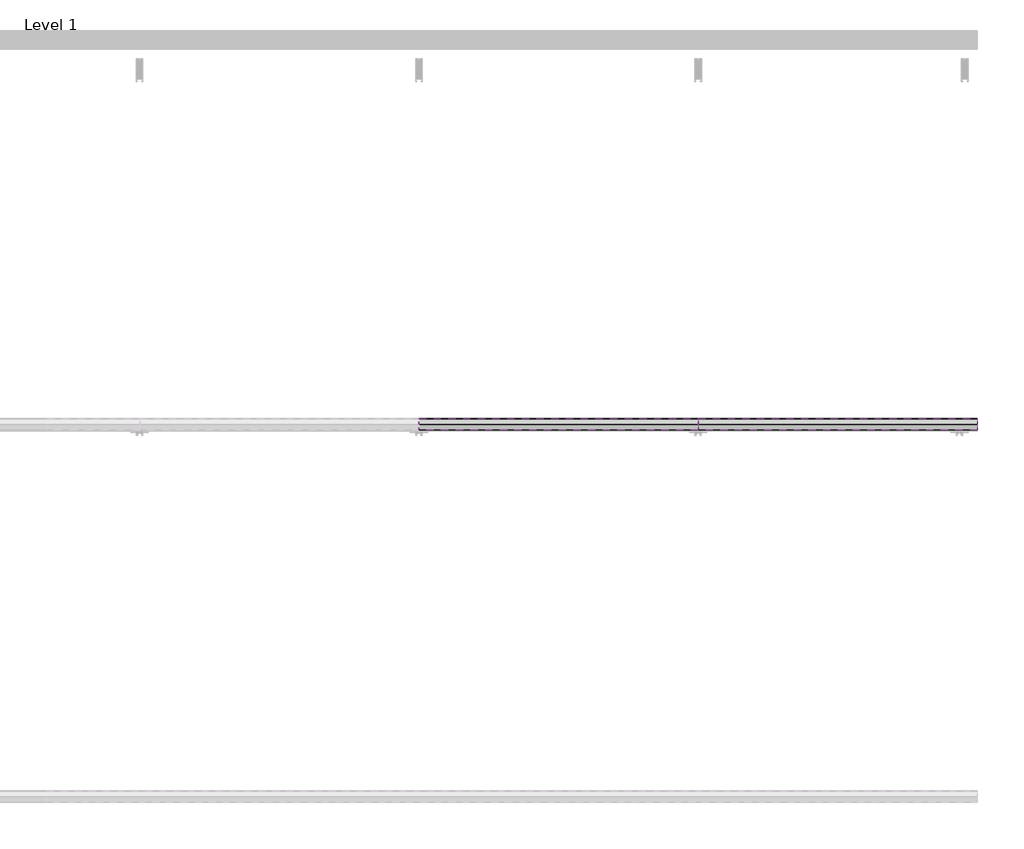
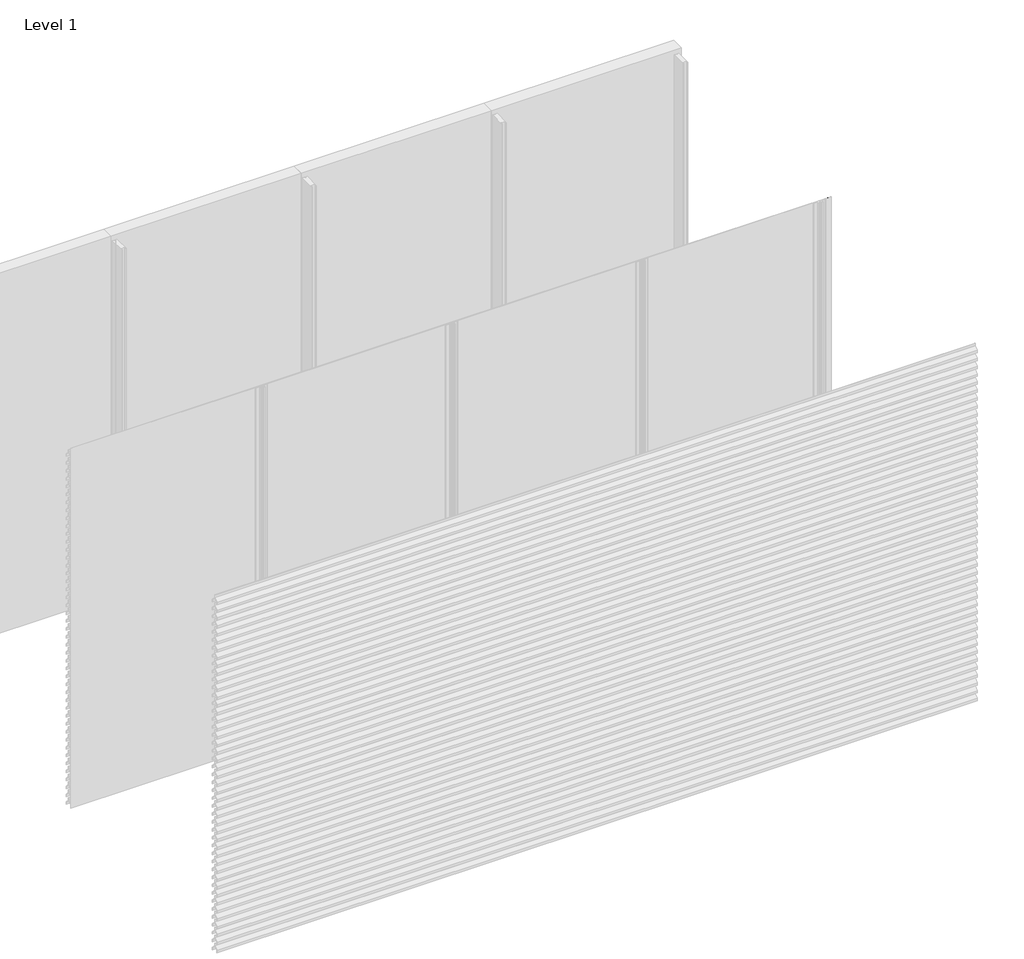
# One storey, part 5 of 35: 69 proxies.
"""IFC4 building model written with IfcOpenShell, lengths in millimetres."""

from ifc_helpers import new_model, si_unit, frame, origin, place, context, project, spatial, polyline, outline, extrude, element, save

model = new_model("IFC4")

# Units and contexts
model_context = context("Model", 3, world=origin())
ifc_project = project(units=[si_unit("LENGTHUNIT", "METRE", prefix="MILLI")], contexts=[model_context])

# Site, building, storey
site = spatial("IfcSite", under=ifc_project)
building = spatial("IfcBuilding", under=site)
storey = spatial("IfcBuildingStorey", under=building, Name="Level 1", Elevation=0.0)

# Proxies
placement = place(None, origin())
element("IfcBuildingElementProxy", 1, Name="Wall Sweeps", at=placement, inside=storey, context=model_context, shape_type="SweptSolid", body=[
    extrude(outline(polyline([(-53936.0, 2388.0), (-53936.0, 2368.0), (-53937.25, 2368.0), (-53937.25, 2387.4342979), (-53968.1138939, 2420.531772), (-53996.7, 2400.4392868), (-53996.7, 2381.6629874), (-53998.0, 2380.8506572), (-53998.0, 2401.1145472), (-53968.537525, 2421.823011), (-53968.537525, 2442.0), (-53967.1772624, 2442.0), (-53967.1772624, 2421.4335207), (-53936.0, 2388.0)])), frame((3000.0, 0.0, 0.0), z_axis=(1.0, 0.0, 0.0), x_axis=(0.0, 1.0, 0.0)), (0.0, 0.0, 1.0), 1500.0),
])
element("IfcBuildingElementProxy", 2, Name="Wall Sweeps", at=placement, inside=storey, context=model_context, shape_type="SweptSolid", body=[
    extrude(outline(polyline([(-53936.0, 2322.0), (-53936.0, 2302.0), (-53937.25, 2302.0), (-53937.25, 2321.4342979), (-53968.1138939, 2354.531772), (-53996.7, 2334.4392868), (-53996.7, 2315.6629874), (-53998.0, 2314.8506572), (-53998.0, 2335.1145472), (-53968.537525, 2355.823011), (-53968.537525, 2376.0), (-53967.1772624, 2376.0), (-53967.1772624, 2355.4335207), (-53936.0, 2322.0)])), frame((3000.0, 0.0, 0.0), z_axis=(1.0, 0.0, 0.0), x_axis=(0.0, 1.0, 0.0)), (0.0, 0.0, 1.0), 1500.0),
])
element("IfcBuildingElementProxy", 3, Name="Wall Sweeps", at=placement, inside=storey, context=model_context, shape_type="SweptSolid", body=[
    extrude(outline(polyline([(-53936.0, 2256.0), (-53936.0, 2236.0), (-53937.25, 2236.0), (-53937.25, 2255.4342979), (-53968.1138939, 2288.531772), (-53996.7, 2268.4392868), (-53996.7, 2249.6629874), (-53998.0, 2248.8506572), (-53998.0, 2269.1145472), (-53968.537525, 2289.823011), (-53968.537525, 2310.0), (-53967.1772624, 2310.0), (-53967.1772624, 2289.4335207), (-53936.0, 2256.0)])), frame((3000.0, 0.0, 0.0), z_axis=(1.0, 0.0, 0.0), x_axis=(0.0, 1.0, 0.0)), (0.0, 0.0, 1.0), 1500.0),
])
element("IfcBuildingElementProxy", 4, Name="Wall Sweeps", at=placement, inside=storey, context=model_context, shape_type="SweptSolid", body=[
    extrude(outline(polyline([(-53936.0, 2190.0), (-53936.0, 2170.0), (-53937.25, 2170.0), (-53937.25, 2189.4342979), (-53968.1138939, 2222.531772), (-53996.7, 2202.4392868), (-53996.7, 2183.6629874), (-53998.0, 2182.8506572), (-53998.0, 2203.1145472), (-53968.537525, 2223.823011), (-53968.537525, 2244.0), (-53967.1772624, 2244.0), (-53967.1772624, 2223.4335207), (-53936.0, 2190.0)])), frame((3000.0, 0.0, 0.0), z_axis=(1.0, 0.0, 0.0), x_axis=(0.0, 1.0, 0.0)), (0.0, 0.0, 1.0), 1500.0),
])
element("IfcBuildingElementProxy", 5, Name="Wall Sweeps", at=placement, inside=storey, context=model_context, shape_type="SweptSolid", body=[
    extrude(outline(polyline([(-53936.0, 2124.0), (-53936.0, 2104.0), (-53937.25, 2104.0), (-53937.25, 2123.4342979), (-53968.1138939, 2156.531772), (-53996.7, 2136.4392868), (-53996.7, 2117.6629874), (-53998.0, 2116.8506572), (-53998.0, 2137.1145472), (-53968.537525, 2157.823011), (-53968.537525, 2178.0), (-53967.1772624, 2178.0), (-53967.1772624, 2157.4335207), (-53936.0, 2124.0)])), frame((3000.0, 0.0, 0.0), z_axis=(1.0, 0.0, 0.0), x_axis=(0.0, 1.0, 0.0)), (0.0, 0.0, 1.0), 1500.0),
])
element("IfcBuildingElementProxy", 6, Name="Wall Sweeps", at=placement, inside=storey, context=model_context, shape_type="SweptSolid", body=[
    extrude(outline(polyline([(-53936.0, 2058.0), (-53936.0, 2038.0), (-53937.25, 2038.0), (-53937.25, 2057.4342979), (-53968.1138939, 2090.531772), (-53996.7, 2070.4392868), (-53996.7, 2051.6629874), (-53998.0, 2050.8506572), (-53998.0, 2071.1145472), (-53968.537525, 2091.823011), (-53968.537525, 2112.0), (-53967.1772624, 2112.0), (-53967.1772624, 2091.4335207), (-53936.0, 2058.0)])), frame((3000.0, 0.0, 0.0), z_axis=(1.0, 0.0, 0.0), x_axis=(0.0, 1.0, 0.0)), (0.0, 0.0, 1.0), 1500.0),
])
element("IfcBuildingElementProxy", 7, Name="Wall Sweeps", at=placement, inside=storey, context=model_context, shape_type="SweptSolid", body=[
    extrude(outline(polyline([(-53936.0, 1992.0), (-53936.0, 1972.0), (-53937.25, 1972.0), (-53937.25, 1991.4342979), (-53968.1138939, 2024.531772), (-53996.7, 2004.4392868), (-53996.7, 1985.6629874), (-53998.0, 1984.8506572), (-53998.0, 2005.1145472), (-53968.537525, 2025.823011), (-53968.537525, 2046.0), (-53967.1772624, 2046.0), (-53967.1772624, 2025.4335207), (-53936.0, 1992.0)])), frame((3000.0, 0.0, 0.0), z_axis=(1.0, 0.0, 0.0), x_axis=(0.0, 1.0, 0.0)), (0.0, 0.0, 1.0), 1500.0),
])
element("IfcBuildingElementProxy", 8, Name="Wall Sweeps", at=placement, inside=storey, context=model_context, shape_type="SweptSolid", body=[
    extrude(outline(polyline([(-53936.0, 1926.0), (-53936.0, 1906.0), (-53937.25, 1906.0), (-53937.25, 1925.4342979), (-53968.1138939, 1958.531772), (-53996.7, 1938.4392868), (-53996.7, 1919.6629874), (-53998.0, 1918.8506572), (-53998.0, 1939.1145472), (-53968.537525, 1959.823011), (-53968.537525, 1980.0), (-53967.1772624, 1980.0), (-53967.1772624, 1959.4335207), (-53936.0, 1926.0)])), frame((3000.0, 0.0, 0.0), z_axis=(1.0, 0.0, 0.0), x_axis=(0.0, 1.0, 0.0)), (0.0, 0.0, 1.0), 1500.0),
])
element("IfcBuildingElementProxy", 9, Name="Wall Sweeps", at=placement, inside=storey, context=model_context, shape_type="SweptSolid", body=[
    extrude(outline(polyline([(-53936.0, 1860.0), (-53936.0, 1840.0), (-53937.25, 1840.0), (-53937.25, 1859.4342979), (-53968.1138939, 1892.531772), (-53996.7, 1872.4392868), (-53996.7, 1853.6629874), (-53998.0, 1852.8506572), (-53998.0, 1873.1145472), (-53968.537525, 1893.823011), (-53968.537525, 1914.0), (-53967.1772624, 1914.0), (-53967.1772624, 1893.4335207), (-53936.0, 1860.0)])), frame((3000.0, 0.0, 0.0), z_axis=(1.0, 0.0, 0.0), x_axis=(0.0, 1.0, 0.0)), (0.0, 0.0, 1.0), 1500.0),
])
element("IfcBuildingElementProxy", 10, Name="Wall Sweeps", at=placement, inside=storey, context=model_context, shape_type="SweptSolid", body=[
    extrude(outline(polyline([(-53936.0, 1794.0), (-53936.0, 1774.0), (-53937.25, 1774.0), (-53937.25, 1793.4342979), (-53968.1138939, 1826.531772), (-53996.7, 1806.4392868), (-53996.7, 1787.6629874), (-53998.0, 1786.8506572), (-53998.0, 1807.1145472), (-53968.537525, 1827.823011), (-53968.537525, 1848.0), (-53967.1772624, 1848.0), (-53967.1772624, 1827.4335207), (-53936.0, 1794.0)])), frame((3000.0, 0.0, 0.0), z_axis=(1.0, 0.0, 0.0), x_axis=(0.0, 1.0, 0.0)), (0.0, 0.0, 1.0), 1500.0),
])
element("IfcBuildingElementProxy", 11, Name="Wall Sweeps", at=placement, inside=storey, context=model_context, shape_type="SweptSolid", body=[
    extrude(outline(polyline([(-53936.0, 1728.0), (-53936.0, 1708.0), (-53937.25, 1708.0), (-53937.25, 1727.4342979), (-53968.1138939, 1760.531772), (-53996.7, 1740.4392868), (-53996.7, 1721.6629874), (-53998.0, 1720.8506572), (-53998.0, 1741.1145472), (-53968.537525, 1761.823011), (-53968.537525, 1782.0), (-53967.1772624, 1782.0), (-53967.1772624, 1761.4335207), (-53936.0, 1728.0)])), frame((3000.0, 0.0, 0.0), z_axis=(1.0, 0.0, 0.0), x_axis=(0.0, 1.0, 0.0)), (0.0, 0.0, 1.0), 1500.0),
])
element("IfcBuildingElementProxy", 12, Name="Wall Sweeps", at=placement, inside=storey, context=model_context, shape_type="SweptSolid", body=[
    extrude(outline(polyline([(-53936.0, 1662.0), (-53936.0, 1642.0), (-53937.25, 1642.0), (-53937.25, 1661.4342979), (-53968.1138939, 1694.531772), (-53996.7, 1674.4392868), (-53996.7, 1655.6629874), (-53998.0, 1654.8506572), (-53998.0, 1675.1145472), (-53968.537525, 1695.823011), (-53968.537525, 1716.0), (-53967.1772624, 1716.0), (-53967.1772624, 1695.4335207), (-53936.0, 1662.0)])), frame((3000.0, 0.0, 0.0), z_axis=(1.0, 0.0, 0.0), x_axis=(0.0, 1.0, 0.0)), (0.0, 0.0, 1.0), 1500.0),
])
element("IfcBuildingElementProxy", 13, Name="Wall Sweeps", at=placement, inside=storey, context=model_context, shape_type="SweptSolid", body=[
    extrude(outline(polyline([(-53936.0, 1596.0), (-53936.0, 1576.0), (-53937.25, 1576.0), (-53937.25, 1595.4342979), (-53968.1138939, 1628.531772), (-53996.7, 1608.4392868), (-53996.7, 1589.6629874), (-53998.0, 1588.8506572), (-53998.0, 1609.1145472), (-53968.537525, 1629.823011), (-53968.537525, 1650.0), (-53967.1772624, 1650.0), (-53967.1772624, 1629.4335207), (-53936.0, 1596.0)])), frame((3000.0, 0.0, 0.0), z_axis=(1.0, 0.0, 0.0), x_axis=(0.0, 1.0, 0.0)), (0.0, 0.0, 1.0), 1500.0),
])
element("IfcBuildingElementProxy", 14, Name="Wall Sweeps", at=placement, inside=storey, context=model_context, shape_type="SweptSolid", body=[
    extrude(outline(polyline([(-53936.0, 1530.0), (-53936.0, 1510.0), (-53937.25, 1510.0), (-53937.25, 1529.4342979), (-53968.1138939, 1562.531772), (-53996.7, 1542.4392868), (-53996.7, 1523.6629874), (-53998.0, 1522.8506572), (-53998.0, 1543.1145472), (-53968.537525, 1563.823011), (-53968.537525, 1584.0), (-53967.1772624, 1584.0), (-53967.1772624, 1563.4335207), (-53936.0, 1530.0)])), frame((3000.0, 0.0, 0.0), z_axis=(1.0, 0.0, 0.0), x_axis=(0.0, 1.0, 0.0)), (0.0, 0.0, 1.0), 1500.0),
])
element("IfcBuildingElementProxy", 15, Name="Wall Sweeps", at=placement, inside=storey, context=model_context, shape_type="SweptSolid", body=[
    extrude(outline(polyline([(-53936.0, 1464.0), (-53936.0, 1444.0), (-53937.25, 1444.0), (-53937.25, 1463.4342979), (-53968.1138939, 1496.531772), (-53996.7, 1476.4392868), (-53996.7, 1457.6629874), (-53998.0, 1456.8506572), (-53998.0, 1477.1145472), (-53968.537525, 1497.823011), (-53968.537525, 1518.0), (-53967.1772624, 1518.0), (-53967.1772624, 1497.4335207), (-53936.0, 1464.0)])), frame((3000.0, 0.0, 0.0), z_axis=(1.0, 0.0, 0.0), x_axis=(0.0, 1.0, 0.0)), (0.0, 0.0, 1.0), 1500.0),
])
element("IfcBuildingElementProxy", 16, Name="Wall Sweeps", at=placement, inside=storey, context=model_context, shape_type="SweptSolid", body=[
    extrude(outline(polyline([(-53936.0, 1398.0), (-53936.0, 1378.0), (-53937.25, 1378.0), (-53937.25, 1397.4342979), (-53968.1138939, 1430.531772), (-53996.7, 1410.4392868), (-53996.7, 1391.6629874), (-53998.0, 1390.8506572), (-53998.0, 1411.1145472), (-53968.537525, 1431.823011), (-53968.537525, 1452.0), (-53967.1772624, 1452.0), (-53967.1772624, 1431.4335207), (-53936.0, 1398.0)])), frame((3000.0, 0.0, 0.0), z_axis=(1.0, 0.0, 0.0), x_axis=(0.0, 1.0, 0.0)), (0.0, 0.0, 1.0), 1500.0),
])
element("IfcBuildingElementProxy", 17, Name="Wall Sweeps", at=placement, inside=storey, context=model_context, shape_type="SweptSolid", body=[
    extrude(outline(polyline([(-53936.0, 1332.0), (-53936.0, 1312.0), (-53937.25, 1312.0), (-53937.25, 1331.4342979), (-53968.1138939, 1364.531772), (-53996.7, 1344.4392868), (-53996.7, 1325.6629874), (-53998.0, 1324.8506572), (-53998.0, 1345.1145472), (-53968.537525, 1365.823011), (-53968.537525, 1386.0), (-53967.1772624, 1386.0), (-53967.1772624, 1365.4335207), (-53936.0, 1332.0)])), frame((3000.0, 0.0, 0.0), z_axis=(1.0, 0.0, 0.0), x_axis=(0.0, 1.0, 0.0)), (0.0, 0.0, 1.0), 1500.0),
])
element("IfcBuildingElementProxy", 18, Name="Wall Sweeps", at=placement, inside=storey, context=model_context, shape_type="SweptSolid", body=[
    extrude(outline(polyline([(-53936.0, 1266.0), (-53936.0, 1246.0), (-53937.25, 1246.0), (-53937.25, 1265.4342979), (-53968.1138939, 1298.531772), (-53996.7, 1278.4392868), (-53996.7, 1259.6629874), (-53998.0, 1258.8506572), (-53998.0, 1279.1145472), (-53968.537525, 1299.823011), (-53968.537525, 1320.0), (-53967.1772624, 1320.0), (-53967.1772624, 1299.4335207), (-53936.0, 1266.0)])), frame((3000.0, 0.0, 0.0), z_axis=(1.0, 0.0, 0.0), x_axis=(0.0, 1.0, 0.0)), (0.0, 0.0, 1.0), 1500.0),
])
element("IfcBuildingElementProxy", 19, Name="Wall Sweeps", at=placement, inside=storey, context=model_context, shape_type="SweptSolid", body=[
    extrude(outline(polyline([(-53936.0, 1200.0), (-53936.0, 1180.0), (-53937.25, 1180.0), (-53937.25, 1199.4342979), (-53968.1138939, 1232.531772), (-53996.7, 1212.4392868), (-53996.7, 1193.6629874), (-53998.0, 1192.8506572), (-53998.0, 1213.1145472), (-53968.537525, 1233.823011), (-53968.537525, 1254.0), (-53967.1772624, 1254.0), (-53967.1772624, 1233.4335207), (-53936.0, 1200.0)])), frame((3000.0, 0.0, 0.0), z_axis=(1.0, 0.0, 0.0), x_axis=(0.0, 1.0, 0.0)), (0.0, 0.0, 1.0), 1500.0),
])
element("IfcBuildingElementProxy", 20, Name="Wall Sweeps", at=placement, inside=storey, context=model_context, shape_type="SweptSolid", body=[
    extrude(outline(polyline([(-53936.0, 1134.0), (-53936.0, 1114.0), (-53937.25, 1114.0), (-53937.25, 1133.4342979), (-53968.1138939, 1166.531772), (-53996.7, 1146.4392868), (-53996.7, 1127.6629874), (-53998.0, 1126.8506572), (-53998.0, 1147.1145472), (-53968.537525, 1167.823011), (-53968.537525, 1188.0), (-53967.1772624, 1188.0), (-53967.1772624, 1167.4335207), (-53936.0, 1134.0)])), frame((3000.0, 0.0, 0.0), z_axis=(1.0, 0.0, 0.0), x_axis=(0.0, 1.0, 0.0)), (0.0, 0.0, 1.0), 1500.0),
])
element("IfcBuildingElementProxy", 21, Name="Wall Sweeps", at=placement, inside=storey, context=model_context, shape_type="SweptSolid", body=[
    extrude(outline(polyline([(-53936.0, 1068.0), (-53936.0, 1048.0), (-53937.25, 1048.0), (-53937.25, 1067.4342979), (-53968.1138939, 1100.531772), (-53996.7, 1080.4392868), (-53996.7, 1061.6629874), (-53998.0, 1060.8506572), (-53998.0, 1081.1145472), (-53968.537525, 1101.823011), (-53968.537525, 1122.0), (-53967.1772624, 1122.0), (-53967.1772624, 1101.4335207), (-53936.0, 1068.0)])), frame((3000.0, 0.0, 0.0), z_axis=(1.0, 0.0, 0.0), x_axis=(0.0, 1.0, 0.0)), (0.0, 0.0, 1.0), 1500.0),
])
element("IfcBuildingElementProxy", 22, Name="Wall Sweeps", at=placement, inside=storey, context=model_context, shape_type="SweptSolid", body=[
    extrude(outline(polyline([(-53936.0, 1002.0), (-53936.0, 982.0), (-53937.25, 982.0), (-53937.25, 1001.4342979), (-53968.1138939, 1034.531772), (-53996.7, 1014.4392868), (-53996.7, 995.6629874), (-53998.0, 994.8506572), (-53998.0, 1015.1145472), (-53968.537525, 1035.823011), (-53968.537525, 1056.0), (-53967.1772624, 1056.0), (-53967.1772624, 1035.4335207), (-53936.0, 1002.0)])), frame((3000.0, 0.0, 0.0), z_axis=(1.0, 0.0, 0.0), x_axis=(0.0, 1.0, 0.0)), (0.0, 0.0, 1.0), 1500.0),
])
element("IfcBuildingElementProxy", 23, Name="Wall Sweeps", at=placement, inside=storey, context=model_context, shape_type="SweptSolid", body=[
    extrude(outline(polyline([(-53936.0, 936.0), (-53936.0, 916.0), (-53937.25, 916.0), (-53937.25, 935.4342979), (-53968.1138939, 968.531772), (-53996.7, 948.4392868), (-53996.7, 929.6629874), (-53998.0, 928.8506572), (-53998.0, 949.1145472), (-53968.537525, 969.823011), (-53968.537525, 990.0), (-53967.1772624, 990.0), (-53967.1772624, 969.4335207), (-53936.0, 936.0)])), frame((3000.0, 0.0, 0.0), z_axis=(1.0, 0.0, 0.0), x_axis=(0.0, 1.0, 0.0)), (0.0, 0.0, 1.0), 1500.0),
])
element("IfcBuildingElementProxy", 24, Name="Wall Sweeps", at=placement, inside=storey, context=model_context, shape_type="SweptSolid", body=[
    extrude(outline(polyline([(-53936.0, 870.0), (-53936.0, 850.0), (-53937.25, 850.0), (-53937.25, 869.4342979), (-53968.1138939, 902.531772), (-53996.7, 882.4392868), (-53996.7, 863.6629874), (-53998.0, 862.8506572), (-53998.0, 883.1145472), (-53968.537525, 903.823011), (-53968.537525, 924.0), (-53967.1772624, 924.0), (-53967.1772624, 903.4335207), (-53936.0, 870.0)])), frame((3000.0, 0.0, 0.0), z_axis=(1.0, 0.0, 0.0), x_axis=(0.0, 1.0, 0.0)), (0.0, 0.0, 1.0), 1500.0),
])
element("IfcBuildingElementProxy", 25, Name="Wall Sweeps", at=placement, inside=storey, context=model_context, shape_type="SweptSolid", body=[
    extrude(outline(polyline([(-53936.0, 804.0), (-53936.0, 784.0), (-53937.25, 784.0), (-53937.25, 803.4342979), (-53968.1138939, 836.531772), (-53996.7, 816.4392868), (-53996.7, 797.6629874), (-53998.0, 796.8506572), (-53998.0, 817.1145472), (-53968.537525, 837.823011), (-53968.537525, 858.0), (-53967.1772624, 858.0), (-53967.1772624, 837.4335207), (-53936.0, 804.0)])), frame((3000.0, 0.0, 0.0), z_axis=(1.0, 0.0, 0.0), x_axis=(0.0, 1.0, 0.0)), (0.0, 0.0, 1.0), 1500.0),
])
element("IfcBuildingElementProxy", 26, Name="Wall Sweeps", at=placement, inside=storey, context=model_context, shape_type="SweptSolid", body=[
    extrude(outline(polyline([(-53936.0, 738.0), (-53936.0, 718.0), (-53937.25, 718.0), (-53937.25, 737.4342979), (-53968.1138939, 770.531772), (-53996.7, 750.4392868), (-53996.7, 731.6629874), (-53998.0, 730.8506572), (-53998.0, 751.1145472), (-53968.537525, 771.823011), (-53968.537525, 792.0), (-53967.1772624, 792.0), (-53967.1772624, 771.4335207), (-53936.0, 738.0)])), frame((3000.0, 0.0, 0.0), z_axis=(1.0, 0.0, 0.0), x_axis=(0.0, 1.0, 0.0)), (0.0, 0.0, 1.0), 1500.0),
])
element("IfcBuildingElementProxy", 27, Name="Wall Sweeps", at=placement, inside=storey, context=model_context, shape_type="SweptSolid", body=[
    extrude(outline(polyline([(-53936.0, 672.0), (-53936.0, 652.0), (-53937.25, 652.0), (-53937.25, 671.4342979), (-53968.1138939, 704.531772), (-53996.7, 684.4392868), (-53996.7, 665.6629874), (-53998.0, 664.8506572), (-53998.0, 685.1145472), (-53968.537525, 705.823011), (-53968.537525, 726.0), (-53967.1772624, 726.0), (-53967.1772624, 705.4335207), (-53936.0, 672.0)])), frame((3000.0, 0.0, 0.0), z_axis=(1.0, 0.0, 0.0), x_axis=(0.0, 1.0, 0.0)), (0.0, 0.0, 1.0), 1500.0),
])
element("IfcBuildingElementProxy", 28, Name="Wall Sweeps", at=placement, inside=storey, context=model_context, shape_type="SweptSolid", body=[
    extrude(outline(polyline([(-53936.0, 606.0), (-53936.0, 586.0), (-53937.25, 586.0), (-53937.25, 605.4342979), (-53968.1138939, 638.531772), (-53996.7, 618.4392868), (-53996.7, 599.6629874), (-53998.0, 598.8506572), (-53998.0, 619.1145472), (-53968.537525, 639.823011), (-53968.537525, 660.0), (-53967.1772624, 660.0), (-53967.1772624, 639.4335207), (-53936.0, 606.0)])), frame((3000.0, 0.0, 0.0), z_axis=(1.0, 0.0, 0.0), x_axis=(0.0, 1.0, 0.0)), (0.0, 0.0, 1.0), 1500.0),
])
element("IfcBuildingElementProxy", 29, Name="Wall Sweeps", at=placement, inside=storey, context=model_context, shape_type="SweptSolid", body=[
    extrude(outline(polyline([(-53936.0, 540.0), (-53936.0, 520.0), (-53937.25, 520.0), (-53937.25, 539.4342979), (-53968.1138939, 572.531772), (-53996.7, 552.4392868), (-53996.7, 533.6629874), (-53998.0, 532.8506572), (-53998.0, 553.1145472), (-53968.537525, 573.823011), (-53968.537525, 594.0), (-53967.1772624, 594.0), (-53967.1772624, 573.4335207), (-53936.0, 540.0)])), frame((3000.0, 0.0, 0.0), z_axis=(1.0, 0.0, 0.0), x_axis=(0.0, 1.0, 0.0)), (0.0, 0.0, 1.0), 1500.0),
])
element("IfcBuildingElementProxy", 30, Name="Wall Sweeps", at=placement, inside=storey, context=model_context, shape_type="SweptSolid", body=[
    extrude(outline(polyline([(-53936.0, 474.0), (-53936.0, 454.0), (-53937.25, 454.0), (-53937.25, 473.4342979), (-53968.1138939, 506.531772), (-53996.7, 486.4392868), (-53996.7, 467.6629874), (-53998.0, 466.8506572), (-53998.0, 487.1145472), (-53968.537525, 507.823011), (-53968.537525, 528.0), (-53967.1772624, 528.0), (-53967.1772624, 507.4335207), (-53936.0, 474.0)])), frame((3000.0, 0.0, 0.0), z_axis=(1.0, 0.0, 0.0), x_axis=(0.0, 1.0, 0.0)), (0.0, 0.0, 1.0), 1500.0),
])
element("IfcBuildingElementProxy", 31, Name="Wall Sweeps", at=placement, inside=storey, context=model_context, shape_type="SweptSolid", body=[
    extrude(outline(polyline([(-53936.0, 408.0), (-53936.0, 388.0), (-53937.25, 388.0), (-53937.25, 407.4342979), (-53968.1138939, 440.531772), (-53996.7, 420.4392868), (-53996.7, 401.6629874), (-53998.0, 400.8506572), (-53998.0, 421.1145472), (-53968.537525, 441.823011), (-53968.537525, 462.0), (-53967.1772624, 462.0), (-53967.1772624, 441.4335207), (-53936.0, 408.0)])), frame((3000.0, 0.0, 0.0), z_axis=(1.0, 0.0, 0.0), x_axis=(0.0, 1.0, 0.0)), (0.0, 0.0, 1.0), 1500.0),
])
element("IfcBuildingElementProxy", 32, Name="Wall Sweeps", at=placement, inside=storey, context=model_context, shape_type="SweptSolid", body=[
    extrude(outline(polyline([(-53936.0, 342.0), (-53936.0, 322.0), (-53937.25, 322.0), (-53937.25, 341.4342979), (-53968.1138939, 374.531772), (-53996.7, 354.4392868), (-53996.7, 335.6629874), (-53998.0, 334.8506572), (-53998.0, 355.1145472), (-53968.537525, 375.823011), (-53968.537525, 396.0), (-53967.1772624, 396.0), (-53967.1772624, 375.4335207), (-53936.0, 342.0)])), frame((3000.0, 0.0, 0.0), z_axis=(1.0, 0.0, 0.0), x_axis=(0.0, 1.0, 0.0)), (0.0, 0.0, 1.0), 1500.0),
])
element("IfcBuildingElementProxy", 33, Name="Wall Sweeps", at=placement, inside=storey, context=model_context, shape_type="SweptSolid", body=[
    extrude(outline(polyline([(-53936.0, 276.0), (-53936.0, 256.0), (-53937.25, 256.0), (-53937.25, 275.4342979), (-53968.1138939, 308.531772), (-53996.7, 288.4392868), (-53996.7, 269.6629874), (-53998.0, 268.8506572), (-53998.0, 289.1145472), (-53968.537525, 309.823011), (-53968.537525, 330.0), (-53967.1772624, 330.0), (-53967.1772624, 309.4335207), (-53936.0, 276.0)])), frame((3000.0, 0.0, 0.0), z_axis=(1.0, 0.0, 0.0), x_axis=(0.0, 1.0, 0.0)), (0.0, 0.0, 1.0), 1500.0),
])
element("IfcBuildingElementProxy", 34, Name="Wall Sweeps", at=placement, inside=storey, context=model_context, shape_type="SweptSolid", body=[
    extrude(outline(polyline([(-53936.0, 210.0), (-53936.0, 190.0), (-53937.25, 190.0), (-53937.25, 209.4342979), (-53968.1138939, 242.531772), (-53996.7, 222.4392868), (-53996.7, 203.6629874), (-53998.0, 202.8506572), (-53998.0, 223.1145472), (-53968.537525, 243.823011), (-53968.537525, 264.0), (-53967.1772624, 264.0), (-53967.1772624, 243.4335207), (-53936.0, 210.0)])), frame((3000.0, 0.0, 0.0), z_axis=(1.0, 0.0, 0.0), x_axis=(0.0, 1.0, 0.0)), (0.0, 0.0, 1.0), 1500.0),
])
element("IfcBuildingElementProxy", 35, Name="Wall Sweeps", at=placement, inside=storey, context=model_context, shape_type="SweptSolid", body=[
    extrude(outline(polyline([(-53936.0, 144.0), (-53936.0, 124.0), (-53937.25, 124.0), (-53937.25, 143.4342979), (-53968.1138939, 176.531772), (-53996.7, 156.4392868), (-53996.7, 137.6629874), (-53998.0, 136.8506572), (-53998.0, 157.1145472), (-53968.537525, 177.823011), (-53968.537525, 198.0), (-53967.1772624, 198.0), (-53967.1772624, 177.4335207), (-53936.0, 144.0)])), frame((3000.0, 0.0, 0.0), z_axis=(1.0, 0.0, 0.0), x_axis=(0.0, 1.0, 0.0)), (0.0, 0.0, 1.0), 1500.0),
])
element("IfcBuildingElementProxy", 36, Name="Wall Sweeps", at=placement, inside=storey, context=model_context, shape_type="SweptSolid", body=[
    extrude(outline(polyline([(-53936.0, 78.0), (-53936.0, 58.0), (-53937.25, 58.0), (-53937.25, 77.4342979), (-53968.1138939, 110.531772), (-53996.7, 90.4392868), (-53996.7, 71.6629874), (-53998.0, 70.8506572), (-53998.0, 91.1145472), (-53968.537525, 111.823011), (-53968.537525, 132.0), (-53967.1772624, 132.0), (-53967.1772624, 111.4335207), (-53936.0, 78.0)])), frame((3000.0, 0.0, 0.0), z_axis=(1.0, 0.0, 0.0), x_axis=(0.0, 1.0, 0.0)), (0.0, 0.0, 1.0), 1500.0),
])
element("IfcBuildingElementProxy", 37, Name="Wall Sweeps", at=placement, inside=storey, context=model_context, shape_type="SweptSolid", body=[
    extrude(outline(polyline([(-53936.0, 12.0), (-53936.0, -8.0), (-53937.25, -8.0), (-53937.25, 11.4342979), (-53968.1138939, 44.531772), (-53996.7, 24.4392868), (-53996.7, 5.6629874), (-53998.0, 4.8506572), (-53998.0, 25.1145472), (-53968.537525, 45.823011), (-53968.537525, 66.0), (-53967.1772624, 66.0), (-53967.1772624, 45.4335207), (-53936.0, 12.0)])), frame((3000.0, 0.0, 0.0), z_axis=(1.0, 0.0, 0.0), x_axis=(0.0, 1.0, 0.0)), (0.0, 0.0, 1.0), 1500.0),
])
element("IfcBuildingElementProxy", 38, Name="Wall Sweeps", at=placement, inside=storey, context=model_context, shape_type="SweptSolid", body=[
    extrude(outline(polyline([(-53936.0, 2916.0), (-53936.0, 2896.0), (-53937.25, 2896.0), (-53937.25, 2915.4342979), (-53968.1138939, 2948.531772), (-53996.7, 2928.4392868), (-53996.7, 2909.6629874), (-53998.0, 2908.8506572), (-53998.0, 2929.1145472), (-53968.537525, 2949.823011), (-53968.537525, 2970.0), (-53967.1772624, 2970.0), (-53967.1772624, 2949.4335207), (-53936.0, 2916.0)])), frame((4500.0, 0.0, 0.0), z_axis=(1.0, 0.0, 0.0), x_axis=(0.0, 1.0, 0.0)), (0.0, 0.0, 1.0), 1500.0),
])
element("IfcBuildingElementProxy", 39, Name="Wall Sweeps", at=placement, inside=storey, context=model_context, shape_type="SweptSolid", body=[
    extrude(outline(polyline([(-53936.0, 2850.0), (-53936.0, 2830.0), (-53937.25, 2830.0), (-53937.25, 2849.4342979), (-53968.1138939, 2882.531772), (-53996.7, 2862.4392868), (-53996.7, 2843.6629874), (-53998.0, 2842.8506572), (-53998.0, 2863.1145472), (-53968.537525, 2883.823011), (-53968.537525, 2904.0), (-53967.1772624, 2904.0), (-53967.1772624, 2883.4335207), (-53936.0, 2850.0)])), frame((4500.0, 0.0, 0.0), z_axis=(1.0, 0.0, 0.0), x_axis=(0.0, 1.0, 0.0)), (0.0, 0.0, 1.0), 1500.0),
])
element("IfcBuildingElementProxy", 40, Name="Wall Sweeps", at=placement, inside=storey, context=model_context, shape_type="SweptSolid", body=[
    extrude(outline(polyline([(-53936.0, 2784.0), (-53936.0, 2764.0), (-53937.25, 2764.0), (-53937.25, 2783.4342979), (-53968.1138939, 2816.531772), (-53996.7, 2796.4392868), (-53996.7, 2777.6629874), (-53998.0, 2776.8506572), (-53998.0, 2797.1145472), (-53968.537525, 2817.823011), (-53968.537525, 2838.0), (-53967.1772624, 2838.0), (-53967.1772624, 2817.4335207), (-53936.0, 2784.0)])), frame((4500.0, 0.0, 0.0), z_axis=(1.0, 0.0, 0.0), x_axis=(0.0, 1.0, 0.0)), (0.0, 0.0, 1.0), 1500.0),
])
element("IfcBuildingElementProxy", 41, Name="Wall Sweeps", at=placement, inside=storey, context=model_context, shape_type="SweptSolid", body=[
    extrude(outline(polyline([(-53936.0, 2718.0), (-53936.0, 2698.0), (-53937.25, 2698.0), (-53937.25, 2717.4342979), (-53968.1138939, 2750.531772), (-53996.7, 2730.4392868), (-53996.7, 2711.6629874), (-53998.0, 2710.8506572), (-53998.0, 2731.1145472), (-53968.537525, 2751.823011), (-53968.537525, 2772.0), (-53967.1772624, 2772.0), (-53967.1772624, 2751.4335207), (-53936.0, 2718.0)])), frame((4500.0, 0.0, 0.0), z_axis=(1.0, 0.0, 0.0), x_axis=(0.0, 1.0, 0.0)), (0.0, 0.0, 1.0), 1500.0),
])
element("IfcBuildingElementProxy", 42, Name="Wall Sweeps", at=placement, inside=storey, context=model_context, shape_type="SweptSolid", body=[
    extrude(outline(polyline([(-53936.0, 2652.0), (-53936.0, 2632.0), (-53937.25, 2632.0), (-53937.25, 2651.4342979), (-53968.1138939, 2684.531772), (-53996.7, 2664.4392868), (-53996.7, 2645.6629874), (-53998.0, 2644.8506572), (-53998.0, 2665.1145472), (-53968.537525, 2685.823011), (-53968.537525, 2706.0), (-53967.1772624, 2706.0), (-53967.1772624, 2685.4335207), (-53936.0, 2652.0)])), frame((4500.0, 0.0, 0.0), z_axis=(1.0, 0.0, 0.0), x_axis=(0.0, 1.0, 0.0)), (0.0, 0.0, 1.0), 1500.0),
])
element("IfcBuildingElementProxy", 43, Name="Wall Sweeps", at=placement, inside=storey, context=model_context, shape_type="SweptSolid", body=[
    extrude(outline(polyline([(-53936.0, 2586.0), (-53936.0, 2566.0), (-53937.25, 2566.0), (-53937.25, 2585.4342979), (-53968.1138939, 2618.531772), (-53996.7, 2598.4392868), (-53996.7, 2579.6629874), (-53998.0, 2578.8506572), (-53998.0, 2599.1145472), (-53968.537525, 2619.823011), (-53968.537525, 2640.0), (-53967.1772624, 2640.0), (-53967.1772624, 2619.4335207), (-53936.0, 2586.0)])), frame((4500.0, 0.0, 0.0), z_axis=(1.0, 0.0, 0.0), x_axis=(0.0, 1.0, 0.0)), (0.0, 0.0, 1.0), 1500.0),
])
element("IfcBuildingElementProxy", 44, Name="Wall Sweeps", at=placement, inside=storey, context=model_context, shape_type="SweptSolid", body=[
    extrude(outline(polyline([(-53936.0, 2520.0), (-53936.0, 2500.0), (-53937.25, 2500.0), (-53937.25, 2519.4342979), (-53968.1138939, 2552.531772), (-53996.7, 2532.4392868), (-53996.7, 2513.6629874), (-53998.0, 2512.8506572), (-53998.0, 2533.1145472), (-53968.537525, 2553.823011), (-53968.537525, 2574.0), (-53967.1772624, 2574.0), (-53967.1772624, 2553.4335207), (-53936.0, 2520.0)])), frame((4500.0, 0.0, 0.0), z_axis=(1.0, 0.0, 0.0), x_axis=(0.0, 1.0, 0.0)), (0.0, 0.0, 1.0), 1500.0),
])
element("IfcBuildingElementProxy", 45, Name="Wall Sweeps", at=placement, inside=storey, context=model_context, shape_type="SweptSolid", body=[
    extrude(outline(polyline([(-53936.0, 2454.0), (-53936.0, 2434.0), (-53937.25, 2434.0), (-53937.25, 2453.4342979), (-53968.1138939, 2486.531772), (-53996.7, 2466.4392868), (-53996.7, 2447.6629874), (-53998.0, 2446.8506572), (-53998.0, 2467.1145472), (-53968.537525, 2487.823011), (-53968.537525, 2508.0), (-53967.1772624, 2508.0), (-53967.1772624, 2487.4335207), (-53936.0, 2454.0)])), frame((4500.0, 0.0, 0.0), z_axis=(1.0, 0.0, 0.0), x_axis=(0.0, 1.0, 0.0)), (0.0, 0.0, 1.0), 1500.0),
])
element("IfcBuildingElementProxy", 46, Name="Wall Sweeps", at=placement, inside=storey, context=model_context, shape_type="SweptSolid", body=[
    extrude(outline(polyline([(-53936.0, 2388.0), (-53936.0, 2368.0), (-53937.25, 2368.0), (-53937.25, 2387.4342979), (-53968.1138939, 2420.531772), (-53996.7, 2400.4392868), (-53996.7, 2381.6629874), (-53998.0, 2380.8506572), (-53998.0, 2401.1145472), (-53968.537525, 2421.823011), (-53968.537525, 2442.0), (-53967.1772624, 2442.0), (-53967.1772624, 2421.4335207), (-53936.0, 2388.0)])), frame((4500.0, 0.0, 0.0), z_axis=(1.0, 0.0, 0.0), x_axis=(0.0, 1.0, 0.0)), (0.0, 0.0, 1.0), 1500.0),
])
element("IfcBuildingElementProxy", 47, Name="Wall Sweeps", at=placement, inside=storey, context=model_context, shape_type="SweptSolid", body=[
    extrude(outline(polyline([(-53936.0, 2322.0), (-53936.0, 2302.0), (-53937.25, 2302.0), (-53937.25, 2321.4342979), (-53968.1138939, 2354.531772), (-53996.7, 2334.4392868), (-53996.7, 2315.6629874), (-53998.0, 2314.8506572), (-53998.0, 2335.1145472), (-53968.537525, 2355.823011), (-53968.537525, 2376.0), (-53967.1772624, 2376.0), (-53967.1772624, 2355.4335207), (-53936.0, 2322.0)])), frame((4500.0, 0.0, 0.0), z_axis=(1.0, 0.0, 0.0), x_axis=(0.0, 1.0, 0.0)), (0.0, 0.0, 1.0), 1500.0),
])
element("IfcBuildingElementProxy", 48, Name="Wall Sweeps", at=placement, inside=storey, context=model_context, shape_type="SweptSolid", body=[
    extrude(outline(polyline([(-53936.0, 2256.0), (-53936.0, 2236.0), (-53937.25, 2236.0), (-53937.25, 2255.4342979), (-53968.1138939, 2288.531772), (-53996.7, 2268.4392868), (-53996.7, 2249.6629874), (-53998.0, 2248.8506572), (-53998.0, 2269.1145472), (-53968.537525, 2289.823011), (-53968.537525, 2310.0), (-53967.1772624, 2310.0), (-53967.1772624, 2289.4335207), (-53936.0, 2256.0)])), frame((4500.0, 0.0, 0.0), z_axis=(1.0, 0.0, 0.0), x_axis=(0.0, 1.0, 0.0)), (0.0, 0.0, 1.0), 1500.0),
])
element("IfcBuildingElementProxy", 49, Name="Wall Sweeps", at=placement, inside=storey, context=model_context, shape_type="SweptSolid", body=[
    extrude(outline(polyline([(-53936.0, 2190.0), (-53936.0, 2170.0), (-53937.25, 2170.0), (-53937.25, 2189.4342979), (-53968.1138939, 2222.531772), (-53996.7, 2202.4392868), (-53996.7, 2183.6629874), (-53998.0, 2182.8506572), (-53998.0, 2203.1145472), (-53968.537525, 2223.823011), (-53968.537525, 2244.0), (-53967.1772624, 2244.0), (-53967.1772624, 2223.4335207), (-53936.0, 2190.0)])), frame((4500.0, 0.0, 0.0), z_axis=(1.0, 0.0, 0.0), x_axis=(0.0, 1.0, 0.0)), (0.0, 0.0, 1.0), 1500.0),
])
element("IfcBuildingElementProxy", 50, Name="Wall Sweeps", at=placement, inside=storey, context=model_context, shape_type="SweptSolid", body=[
    extrude(outline(polyline([(-53936.0, 2124.0), (-53936.0, 2104.0), (-53937.25, 2104.0), (-53937.25, 2123.4342979), (-53968.1138939, 2156.531772), (-53996.7, 2136.4392868), (-53996.7, 2117.6629874), (-53998.0, 2116.8506572), (-53998.0, 2137.1145472), (-53968.537525, 2157.823011), (-53968.537525, 2178.0), (-53967.1772624, 2178.0), (-53967.1772624, 2157.4335207), (-53936.0, 2124.0)])), frame((4500.0, 0.0, 0.0), z_axis=(1.0, 0.0, 0.0), x_axis=(0.0, 1.0, 0.0)), (0.0, 0.0, 1.0), 1500.0),
])
element("IfcBuildingElementProxy", 51, Name="Wall Sweeps", at=placement, inside=storey, context=model_context, shape_type="SweptSolid", body=[
    extrude(outline(polyline([(-53936.0, 2058.0), (-53936.0, 2038.0), (-53937.25, 2038.0), (-53937.25, 2057.4342979), (-53968.1138939, 2090.531772), (-53996.7, 2070.4392868), (-53996.7, 2051.6629874), (-53998.0, 2050.8506572), (-53998.0, 2071.1145472), (-53968.537525, 2091.823011), (-53968.537525, 2112.0), (-53967.1772624, 2112.0), (-53967.1772624, 2091.4335207), (-53936.0, 2058.0)])), frame((4500.0, 0.0, 0.0), z_axis=(1.0, 0.0, 0.0), x_axis=(0.0, 1.0, 0.0)), (0.0, 0.0, 1.0), 1500.0),
])
element("IfcBuildingElementProxy", 52, Name="Wall Sweeps", at=placement, inside=storey, context=model_context, shape_type="SweptSolid", body=[
    extrude(outline(polyline([(-53936.0, 1992.0), (-53936.0, 1972.0), (-53937.25, 1972.0), (-53937.25, 1991.4342979), (-53968.1138939, 2024.531772), (-53996.7, 2004.4392868), (-53996.7, 1985.6629874), (-53998.0, 1984.8506572), (-53998.0, 2005.1145472), (-53968.537525, 2025.823011), (-53968.537525, 2046.0), (-53967.1772624, 2046.0), (-53967.1772624, 2025.4335207), (-53936.0, 1992.0)])), frame((4500.0, 0.0, 0.0), z_axis=(1.0, 0.0, 0.0), x_axis=(0.0, 1.0, 0.0)), (0.0, 0.0, 1.0), 1500.0),
])
element("IfcBuildingElementProxy", 53, Name="Wall Sweeps", at=placement, inside=storey, context=model_context, shape_type="SweptSolid", body=[
    extrude(outline(polyline([(-53936.0, 1926.0), (-53936.0, 1906.0), (-53937.25, 1906.0), (-53937.25, 1925.4342979), (-53968.1138939, 1958.531772), (-53996.7, 1938.4392868), (-53996.7, 1919.6629874), (-53998.0, 1918.8506572), (-53998.0, 1939.1145472), (-53968.537525, 1959.823011), (-53968.537525, 1980.0), (-53967.1772624, 1980.0), (-53967.1772624, 1959.4335207), (-53936.0, 1926.0)])), frame((4500.0, 0.0, 0.0), z_axis=(1.0, 0.0, 0.0), x_axis=(0.0, 1.0, 0.0)), (0.0, 0.0, 1.0), 1500.0),
])
element("IfcBuildingElementProxy", 54, Name="Wall Sweeps", at=placement, inside=storey, context=model_context, shape_type="SweptSolid", body=[
    extrude(outline(polyline([(-53936.0, 1860.0), (-53936.0, 1840.0), (-53937.25, 1840.0), (-53937.25, 1859.4342979), (-53968.1138939, 1892.531772), (-53996.7, 1872.4392868), (-53996.7, 1853.6629874), (-53998.0, 1852.8506572), (-53998.0, 1873.1145472), (-53968.537525, 1893.823011), (-53968.537525, 1914.0), (-53967.1772624, 1914.0), (-53967.1772624, 1893.4335207), (-53936.0, 1860.0)])), frame((4500.0, 0.0, 0.0), z_axis=(1.0, 0.0, 0.0), x_axis=(0.0, 1.0, 0.0)), (0.0, 0.0, 1.0), 1500.0),
])
element("IfcBuildingElementProxy", 55, Name="Wall Sweeps", at=placement, inside=storey, context=model_context, shape_type="SweptSolid", body=[
    extrude(outline(polyline([(-53936.0, 1794.0), (-53936.0, 1774.0), (-53937.25, 1774.0), (-53937.25, 1793.4342979), (-53968.1138939, 1826.531772), (-53996.7, 1806.4392868), (-53996.7, 1787.6629874), (-53998.0, 1786.8506572), (-53998.0, 1807.1145472), (-53968.537525, 1827.823011), (-53968.537525, 1848.0), (-53967.1772624, 1848.0), (-53967.1772624, 1827.4335207), (-53936.0, 1794.0)])), frame((4500.0, 0.0, 0.0), z_axis=(1.0, 0.0, 0.0), x_axis=(0.0, 1.0, 0.0)), (0.0, 0.0, 1.0), 1500.0),
])
element("IfcBuildingElementProxy", 56, Name="Wall Sweeps", at=placement, inside=storey, context=model_context, shape_type="SweptSolid", body=[
    extrude(outline(polyline([(-53936.0, 1728.0), (-53936.0, 1708.0), (-53937.25, 1708.0), (-53937.25, 1727.4342979), (-53968.1138939, 1760.531772), (-53996.7, 1740.4392868), (-53996.7, 1721.6629874), (-53998.0, 1720.8506572), (-53998.0, 1741.1145472), (-53968.537525, 1761.823011), (-53968.537525, 1782.0), (-53967.1772624, 1782.0), (-53967.1772624, 1761.4335207), (-53936.0, 1728.0)])), frame((4500.0, 0.0, 0.0), z_axis=(1.0, 0.0, 0.0), x_axis=(0.0, 1.0, 0.0)), (0.0, 0.0, 1.0), 1500.0),
])
element("IfcBuildingElementProxy", 57, Name="Wall Sweeps", at=placement, inside=storey, context=model_context, shape_type="SweptSolid", body=[
    extrude(outline(polyline([(-53936.0, 1662.0), (-53936.0, 1642.0), (-53937.25, 1642.0), (-53937.25, 1661.4342979), (-53968.1138939, 1694.531772), (-53996.7, 1674.4392868), (-53996.7, 1655.6629874), (-53998.0, 1654.8506572), (-53998.0, 1675.1145472), (-53968.537525, 1695.823011), (-53968.537525, 1716.0), (-53967.1772624, 1716.0), (-53967.1772624, 1695.4335207), (-53936.0, 1662.0)])), frame((4500.0, 0.0, 0.0), z_axis=(1.0, 0.0, 0.0), x_axis=(0.0, 1.0, 0.0)), (0.0, 0.0, 1.0), 1500.0),
])
element("IfcBuildingElementProxy", 58, Name="Wall Sweeps", at=placement, inside=storey, context=model_context, shape_type="SweptSolid", body=[
    extrude(outline(polyline([(-53936.0, 1596.0), (-53936.0, 1576.0), (-53937.25, 1576.0), (-53937.25, 1595.4342979), (-53968.1138939, 1628.531772), (-53996.7, 1608.4392868), (-53996.7, 1589.6629874), (-53998.0, 1588.8506572), (-53998.0, 1609.1145472), (-53968.537525, 1629.823011), (-53968.537525, 1650.0), (-53967.1772624, 1650.0), (-53967.1772624, 1629.4335207), (-53936.0, 1596.0)])), frame((4500.0, 0.0, 0.0), z_axis=(1.0, 0.0, 0.0), x_axis=(0.0, 1.0, 0.0)), (0.0, 0.0, 1.0), 1500.0),
])
element("IfcBuildingElementProxy", 59, Name="Wall Sweeps", at=placement, inside=storey, context=model_context, shape_type="SweptSolid", body=[
    extrude(outline(polyline([(-53936.0, 1530.0), (-53936.0, 1510.0), (-53937.25, 1510.0), (-53937.25, 1529.4342979), (-53968.1138939, 1562.531772), (-53996.7, 1542.4392868), (-53996.7, 1523.6629874), (-53998.0, 1522.8506572), (-53998.0, 1543.1145472), (-53968.537525, 1563.823011), (-53968.537525, 1584.0), (-53967.1772624, 1584.0), (-53967.1772624, 1563.4335207), (-53936.0, 1530.0)])), frame((4500.0, 0.0, 0.0), z_axis=(1.0, 0.0, 0.0), x_axis=(0.0, 1.0, 0.0)), (0.0, 0.0, 1.0), 1500.0),
])
element("IfcBuildingElementProxy", 60, Name="Wall Sweeps", at=placement, inside=storey, context=model_context, shape_type="SweptSolid", body=[
    extrude(outline(polyline([(-53936.0, 1464.0), (-53936.0, 1444.0), (-53937.25, 1444.0), (-53937.25, 1463.4342979), (-53968.1138939, 1496.531772), (-53996.7, 1476.4392868), (-53996.7, 1457.6629874), (-53998.0, 1456.8506572), (-53998.0, 1477.1145472), (-53968.537525, 1497.823011), (-53968.537525, 1518.0), (-53967.1772624, 1518.0), (-53967.1772624, 1497.4335207), (-53936.0, 1464.0)])), frame((4500.0, 0.0, 0.0), z_axis=(1.0, 0.0, 0.0), x_axis=(0.0, 1.0, 0.0)), (0.0, 0.0, 1.0), 1500.0),
])
element("IfcBuildingElementProxy", 61, Name="Wall Sweeps", at=placement, inside=storey, context=model_context, shape_type="SweptSolid", body=[
    extrude(outline(polyline([(-53936.0, 1398.0), (-53936.0, 1378.0), (-53937.25, 1378.0), (-53937.25, 1397.4342979), (-53968.1138939, 1430.531772), (-53996.7, 1410.4392868), (-53996.7, 1391.6629874), (-53998.0, 1390.8506572), (-53998.0, 1411.1145472), (-53968.537525, 1431.823011), (-53968.537525, 1452.0), (-53967.1772624, 1452.0), (-53967.1772624, 1431.4335207), (-53936.0, 1398.0)])), frame((4500.0, 0.0, 0.0), z_axis=(1.0, 0.0, 0.0), x_axis=(0.0, 1.0, 0.0)), (0.0, 0.0, 1.0), 1500.0),
])
element("IfcBuildingElementProxy", 62, Name="Wall Sweeps", at=placement, inside=storey, context=model_context, shape_type="SweptSolid", body=[
    extrude(outline(polyline([(-53936.0, 1332.0), (-53936.0, 1312.0), (-53937.25, 1312.0), (-53937.25, 1331.4342979), (-53968.1138939, 1364.531772), (-53996.7, 1344.4392868), (-53996.7, 1325.6629874), (-53998.0, 1324.8506572), (-53998.0, 1345.1145472), (-53968.537525, 1365.823011), (-53968.537525, 1386.0), (-53967.1772624, 1386.0), (-53967.1772624, 1365.4335207), (-53936.0, 1332.0)])), frame((4500.0, 0.0, 0.0), z_axis=(1.0, 0.0, 0.0), x_axis=(0.0, 1.0, 0.0)), (0.0, 0.0, 1.0), 1500.0),
])
element("IfcBuildingElementProxy", 63, Name="Wall Sweeps", at=placement, inside=storey, context=model_context, shape_type="SweptSolid", body=[
    extrude(outline(polyline([(-53936.0, 1266.0), (-53936.0, 1246.0), (-53937.25, 1246.0), (-53937.25, 1265.4342979), (-53968.1138939, 1298.531772), (-53996.7, 1278.4392868), (-53996.7, 1259.6629874), (-53998.0, 1258.8506572), (-53998.0, 1279.1145472), (-53968.537525, 1299.823011), (-53968.537525, 1320.0), (-53967.1772624, 1320.0), (-53967.1772624, 1299.4335207), (-53936.0, 1266.0)])), frame((4500.0, 0.0, 0.0), z_axis=(1.0, 0.0, 0.0), x_axis=(0.0, 1.0, 0.0)), (0.0, 0.0, 1.0), 1500.0),
])
element("IfcBuildingElementProxy", 64, Name="Wall Sweeps", at=placement, inside=storey, context=model_context, shape_type="SweptSolid", body=[
    extrude(outline(polyline([(-53936.0, 1200.0), (-53936.0, 1180.0), (-53937.25, 1180.0), (-53937.25, 1199.4342979), (-53968.1138939, 1232.531772), (-53996.7, 1212.4392868), (-53996.7, 1193.6629874), (-53998.0, 1192.8506572), (-53998.0, 1213.1145472), (-53968.537525, 1233.823011), (-53968.537525, 1254.0), (-53967.1772624, 1254.0), (-53967.1772624, 1233.4335207), (-53936.0, 1200.0)])), frame((4500.0, 0.0, 0.0), z_axis=(1.0, 0.0, 0.0), x_axis=(0.0, 1.0, 0.0)), (0.0, 0.0, 1.0), 1500.0),
])
element("IfcBuildingElementProxy", 65, Name="Wall Sweeps", at=placement, inside=storey, context=model_context, shape_type="SweptSolid", body=[
    extrude(outline(polyline([(-53936.0, 1134.0), (-53936.0, 1114.0), (-53937.25, 1114.0), (-53937.25, 1133.4342979), (-53968.1138939, 1166.531772), (-53996.7, 1146.4392868), (-53996.7, 1127.6629874), (-53998.0, 1126.8506572), (-53998.0, 1147.1145472), (-53968.537525, 1167.823011), (-53968.537525, 1188.0), (-53967.1772624, 1188.0), (-53967.1772624, 1167.4335207), (-53936.0, 1134.0)])), frame((4500.0, 0.0, 0.0), z_axis=(1.0, 0.0, 0.0), x_axis=(0.0, 1.0, 0.0)), (0.0, 0.0, 1.0), 1500.0),
])
element("IfcBuildingElementProxy", 66, Name="Wall Sweeps", at=placement, inside=storey, context=model_context, shape_type="SweptSolid", body=[
    extrude(outline(polyline([(-53936.0, 1068.0), (-53936.0, 1048.0), (-53937.25, 1048.0), (-53937.25, 1067.4342979), (-53968.1138939, 1100.531772), (-53996.7, 1080.4392868), (-53996.7, 1061.6629874), (-53998.0, 1060.8506572), (-53998.0, 1081.1145472), (-53968.537525, 1101.823011), (-53968.537525, 1122.0), (-53967.1772624, 1122.0), (-53967.1772624, 1101.4335207), (-53936.0, 1068.0)])), frame((4500.0, 0.0, 0.0), z_axis=(1.0, 0.0, 0.0), x_axis=(0.0, 1.0, 0.0)), (0.0, 0.0, 1.0), 1500.0),
])
element("IfcBuildingElementProxy", 67, Name="Wall Sweeps", at=placement, inside=storey, context=model_context, shape_type="SweptSolid", body=[
    extrude(outline(polyline([(-53936.0, 1002.0), (-53936.0, 982.0), (-53937.25, 982.0), (-53937.25, 1001.4342979), (-53968.1138939, 1034.531772), (-53996.7, 1014.4392868), (-53996.7, 995.6629874), (-53998.0, 994.8506572), (-53998.0, 1015.1145472), (-53968.537525, 1035.823011), (-53968.537525, 1056.0), (-53967.1772624, 1056.0), (-53967.1772624, 1035.4335207), (-53936.0, 1002.0)])), frame((4500.0, 0.0, 0.0), z_axis=(1.0, 0.0, 0.0), x_axis=(0.0, 1.0, 0.0)), (0.0, 0.0, 1.0), 1500.0),
])
element("IfcBuildingElementProxy", 68, Name="Wall Sweeps", at=placement, inside=storey, context=model_context, shape_type="SweptSolid", body=[
    extrude(outline(polyline([(-53936.0, 936.0), (-53936.0, 916.0), (-53937.25, 916.0), (-53937.25, 935.4342979), (-53968.1138939, 968.531772), (-53996.7, 948.4392868), (-53996.7, 929.6629874), (-53998.0, 928.8506572), (-53998.0, 949.1145472), (-53968.537525, 969.823011), (-53968.537525, 990.0), (-53967.1772624, 990.0), (-53967.1772624, 969.4335207), (-53936.0, 936.0)])), frame((4500.0, 0.0, 0.0), z_axis=(1.0, 0.0, 0.0), x_axis=(0.0, 1.0, 0.0)), (0.0, 0.0, 1.0), 1500.0),
])
element("IfcBuildingElementProxy", 69, Name="Wall Sweeps", at=placement, inside=storey, context=model_context, shape_type="SweptSolid", body=[
    extrude(outline(polyline([(-53936.0, 870.0), (-53936.0, 850.0), (-53937.25, 850.0), (-53937.25, 869.4342979), (-53968.1138939, 902.531772), (-53996.7, 882.4392868), (-53996.7, 863.6629874), (-53998.0, 862.8506572), (-53998.0, 883.1145472), (-53968.537525, 903.823011), (-53968.537525, 924.0), (-53967.1772624, 924.0), (-53967.1772624, 903.4335207), (-53936.0, 870.0)])), frame((4500.0, 0.0, 0.0), z_axis=(1.0, 0.0, 0.0), x_axis=(0.0, 1.0, 0.0)), (0.0, 0.0, 1.0), 1500.0),
])

save(model, "model.ifc")
